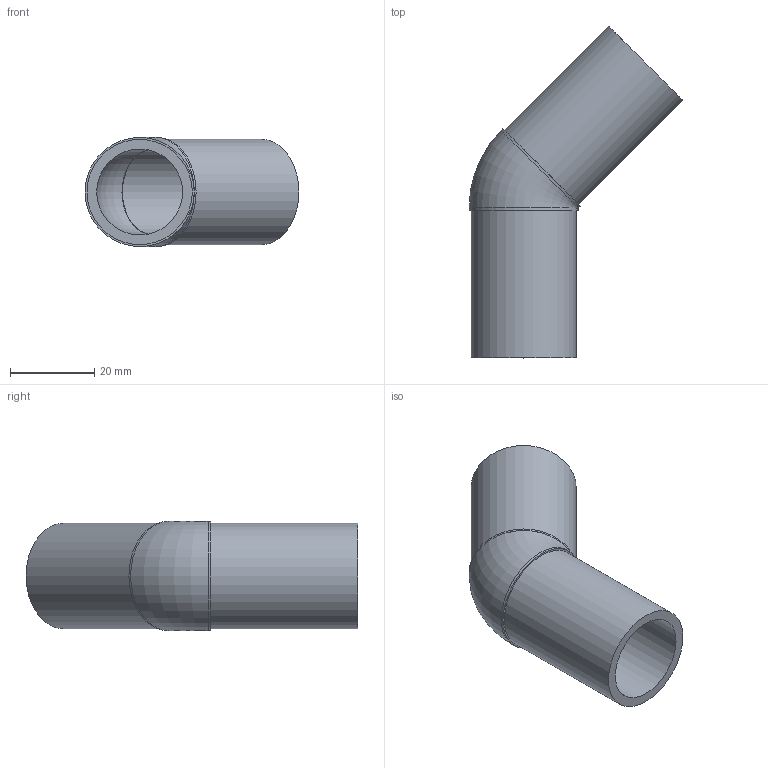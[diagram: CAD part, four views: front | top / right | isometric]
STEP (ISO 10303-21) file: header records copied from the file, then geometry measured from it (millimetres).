
FILE_DESCRIPTION(('Beschreibung'),'1');
FILE_NAME('V:/Ziel/25.15.01.103_SDR11_PE100_025.STP', '2014-09-15T06:01:07',('Author'), ('Organization'), 'KCM Version 1.1.794.0', 'Kubotek KeyCreator', 'Authorization');
FILE_SCHEMA(('CONFIG_CONTROL_DESIGN'));
Length unit declared in the file: millimetre
Bounding box: 50.79 x 78.83 x 25.92 mm (x, y, z)
Volume: 13739.7 mm3; surface area: 12071.9 mm2
Topology: 1 solids, 1 shells, 17 faces, 57 edges, 65 vertices
Faces by surface type: plane 7, cylinder 5, cone 3, torus 2
Full cylindrical faces by diameter (mm): 20.2 x1, 20.4 x2, 25 x2
Entity records: 650 total; most frequent: DIRECTION 111, CARTESIAN_POINT 95, ORIENTED_EDGE 72, AXIS2_PLACEMENT_3D 42, EDGE_CURVE 36, VECTOR 27, LINE 27, VERTEX_POINT 26
